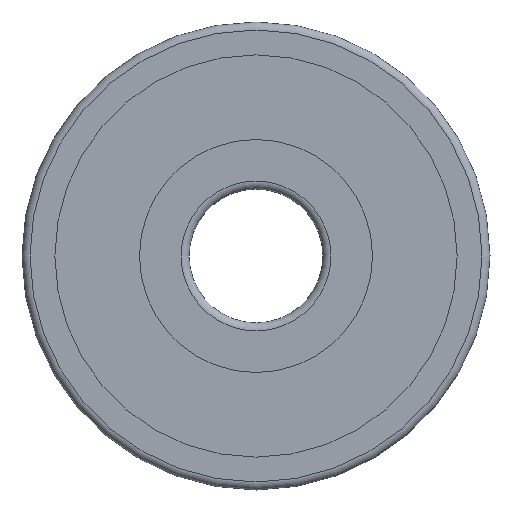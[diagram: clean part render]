
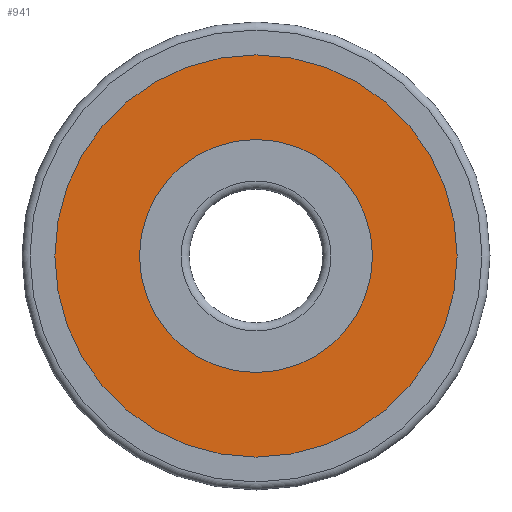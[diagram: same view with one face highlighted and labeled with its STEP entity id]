
A CAD part, left-side view. The second image highlights one B-rep face of the part: STEP entity #941.
In plain terms, the highlighted planar face has unit normal (-1, 0, 0).
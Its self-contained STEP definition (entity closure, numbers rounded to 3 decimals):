
#153=PLANE($,#1103);
#193=FACE_BOUND($,#332,.T.);
#194=FACE_BOUND($,#333,.T.);
#332=EDGE_LOOP($,(#874));
#333=EDGE_LOOP($,(#875));
#423=CIRCLE($,#1102,8.71);
#424=CIRCLE($,#1104,15.04);
#513=VERTEX_POINT($,#2398);
#514=VERTEX_POINT($,#2401);
#634=EDGE_CURVE($,#513,#513,#423,.T.);
#635=EDGE_CURVE($,#514,#514,#424,.T.);
#874=ORIENTED_EDGE($,*,*,#634,.T.);
#875=ORIENTED_EDGE($,*,*,#635,.F.);
#941=ADVANCED_FACE($,(#193,#194),#153,.T.);
#1102=AXIS2_PLACEMENT_3D($,#2399,#1419,#1420);
#1103=AXIS2_PLACEMENT_3D($,#2400,#1421,#1422);
#1104=AXIS2_PLACEMENT_3D($,#2402,#1423,#1424);
#1419=DIRECTION('center_axis',(1.,0.,0.));
#1420=DIRECTION('ref_axis',(0.,0.,-1.));
#1421=DIRECTION('center_axis',(-1.,0.,0.));
#1422=DIRECTION('ref_axis',(0.,0.,1.));
#1423=DIRECTION('center_axis',(1.,0.,0.));
#1424=DIRECTION('ref_axis',(0.,0.,-1.));
#2398=CARTESIAN_POINT('',(-5.5,8.71,0.));
#2399=CARTESIAN_POINT('Origin',(-5.5,0.,0.));
#2400=CARTESIAN_POINT('Origin',(-5.5,15.04,0.));
#2401=CARTESIAN_POINT('',(-5.5,15.04,0.));
#2402=CARTESIAN_POINT('Origin',(-5.5,0.,0.));
